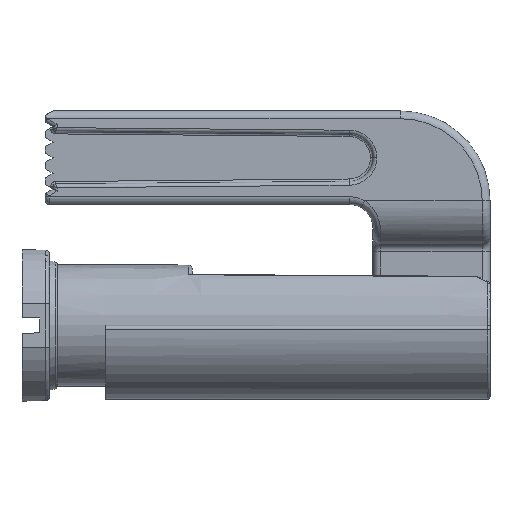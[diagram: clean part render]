
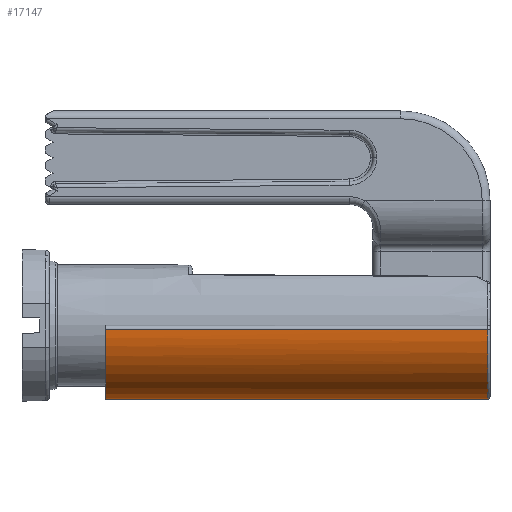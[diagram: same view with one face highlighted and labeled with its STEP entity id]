
A CAD part, left-side view. The second image highlights one B-rep face of the part: STEP entity #17147.
In plain terms, the highlighted cylindrical face has radius 9.488 mm (diameter 18.976 mm), a partial arc.
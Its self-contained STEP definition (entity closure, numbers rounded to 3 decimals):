
#989 = DIRECTION ( 'NONE',  ( 0., -1., 0. ) ) ;
#4128 = DIRECTION ( 'NONE',  ( 0., 1., 0. ) ) ;
#4898 = AXIS2_PLACEMENT_3D ( 'NONE', #52394, #28239, #57226 ) ;
#5229 = CARTESIAN_POINT ( 'NONE',  ( -9.191, 49.218, -5.599 ) ) ;
#8332 = CARTESIAN_POINT ( 'NONE',  ( -9.473, 64.711, -0.528 ) ) ;
#8343 = FACE_OUTER_BOUND ( 'NONE', #51469, .T. ) ;
#9832 = CARTESIAN_POINT ( 'NONE',  ( -0.528, 64.711, -9.473 ) ) ;
#10069 = CARTESIAN_POINT ( 'NONE',  ( -9.473, 49.277, -0.528 ) ) ;
#11346 = EDGE_CURVE ( 'NONE', #30726, #28384, #54309, .T. ) ;
#14729 = CARTESIAN_POINT ( 'NONE',  ( -0.528, 49.277, -9.473 ) ) ;
#17147 = ADVANCED_FACE ( 'NONE', ( #8343 ), #49035, .T. ) ;
#17887 = VECTOR ( 'NONE', #4128, 1000. ) ;
#18506 = LINE ( 'NONE', #9832, #39558 ) ;
#20754 = CARTESIAN_POINT ( 'NONE',  ( -9.473, 0.3, -0.528 ) ) ;
#27125 = ORIENTED_EDGE ( 'NONE', *, *, #29948, .T. ) ;
#28239 = DIRECTION ( 'NONE',  ( 0., -1., 0. ) ) ;
#28307 = EDGE_CURVE ( 'NONE', #57279, #35600, #52955, .T. ) ;
#28384 = VERTEX_POINT ( 'NONE', #20754 ) ;
#29948 = EDGE_CURVE ( 'NONE', #28384, #35600, #34407, .T. ) ;
#30726 = VERTEX_POINT ( 'NONE', #53099 ) ;
#31051 = AXIS2_PLACEMENT_3D ( 'NONE', #44375, #59065, #39730 ) ;
#34407 = LINE ( 'NONE', #8332, #17887 ) ;
#35600 = VERTEX_POINT ( 'NONE', #47077 ) ;
#36572 = EDGE_CURVE ( 'NONE', #57279, #30726, #18506, .T. ) ;
#39558 = VECTOR ( 'NONE', #989, 1000. ) ;
#39730 = DIRECTION ( 'NONE',  ( 0., 0., 1. ) ) ;
#44375 = CARTESIAN_POINT ( 'NONE',  ( 0., 0.3, 0. ) ) ;
#47077 = CARTESIAN_POINT ( 'NONE',  ( -9.473, 49.277, -0.528 ) ) ;
#49035 = CYLINDRICAL_SURFACE ( 'NONE', #4898, 9.488 ) ;
#49374 = CARTESIAN_POINT ( 'NONE',  ( -0.528, 49.277, -9.473 ) ) ;
#51469 = EDGE_LOOP ( 'NONE', ( #56917, #53412, #27125, #55511 ) ) ;
#52394 = CARTESIAN_POINT ( 'NONE',  ( 0., 64.711, 0. ) ) ;
#52955 =( BOUNDED_CURVE ( )  B_SPLINE_CURVE ( 3, ( #49374, #53990, #5229, #10069 ),
 .UNSPECIFIED., .F., .T. ) 
 B_SPLINE_CURVE_WITH_KNOTS ( ( 4, 4 ),
 ( 5.553, 7.013 ),
 .UNSPECIFIED. ) 
 CURVE ( )  GEOMETRIC_REPRESENTATION_ITEM ( )  RATIONAL_B_SPLINE_CURVE ( ( 1., 0.83, 0.83, 1. ) ) 
 REPRESENTATION_ITEM ( '' )  );
#53099 = CARTESIAN_POINT ( 'NONE',  ( -0.528, 0.3, -9.473 ) ) ;
#53412 = ORIENTED_EDGE ( 'NONE', *, *, #11346, .T. ) ;
#53990 = CARTESIAN_POINT ( 'NONE',  ( -5.599, 49.218, -9.191 ) ) ;
#54309 = CIRCLE ( 'NONE', #31051, 9.488 ) ;
#55511 = ORIENTED_EDGE ( 'NONE', *, *, #28307, .F. ) ;
#56917 = ORIENTED_EDGE ( 'NONE', *, *, #36572, .T. ) ;
#57226 = DIRECTION ( 'NONE',  ( 0., 0., -1. ) ) ;
#57279 = VERTEX_POINT ( 'NONE', #14729 ) ;
#59065 = DIRECTION ( 'NONE',  ( 0., 1., 0. ) ) ;
